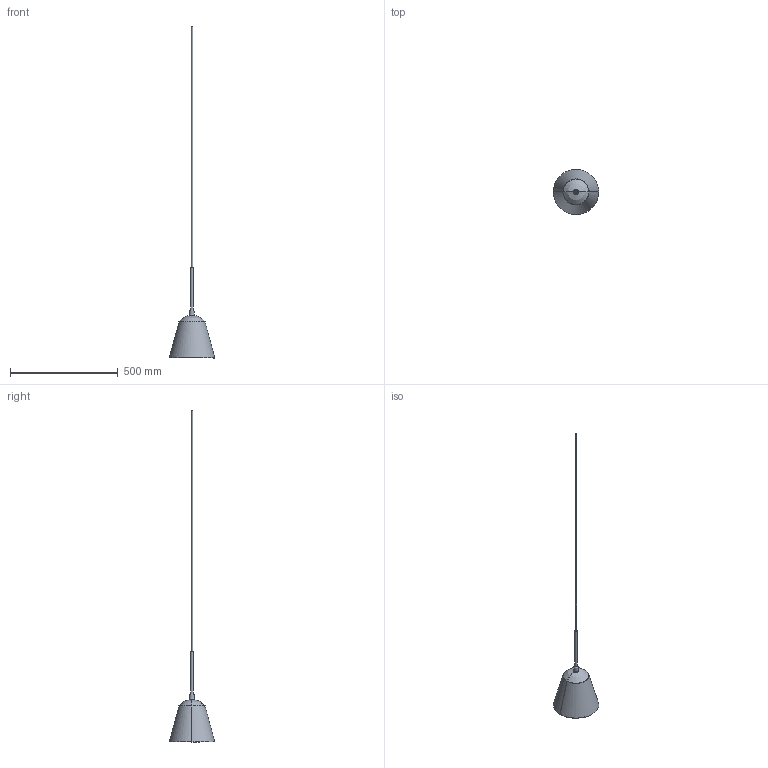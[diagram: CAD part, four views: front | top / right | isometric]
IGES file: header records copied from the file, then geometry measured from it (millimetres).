
Global section: file name: /Users/KristianSofusHansen/Desktop/Line One Pendant/3D/Line One Pendant.igs; preprocessor: Trout Lake IGES 012 Jun 18 2019; date: 191209.153546; units: millimetre
Bounding box: 210.9 x 210.51 x 1543.67 mm (x, y, z)
Surface area: 238491.4 mm2 (no closed solid volume)
Topology: 0 solids, 0 shells, 20 faces, 109 edges, 107 vertices
Faces by surface type: bspline 20
